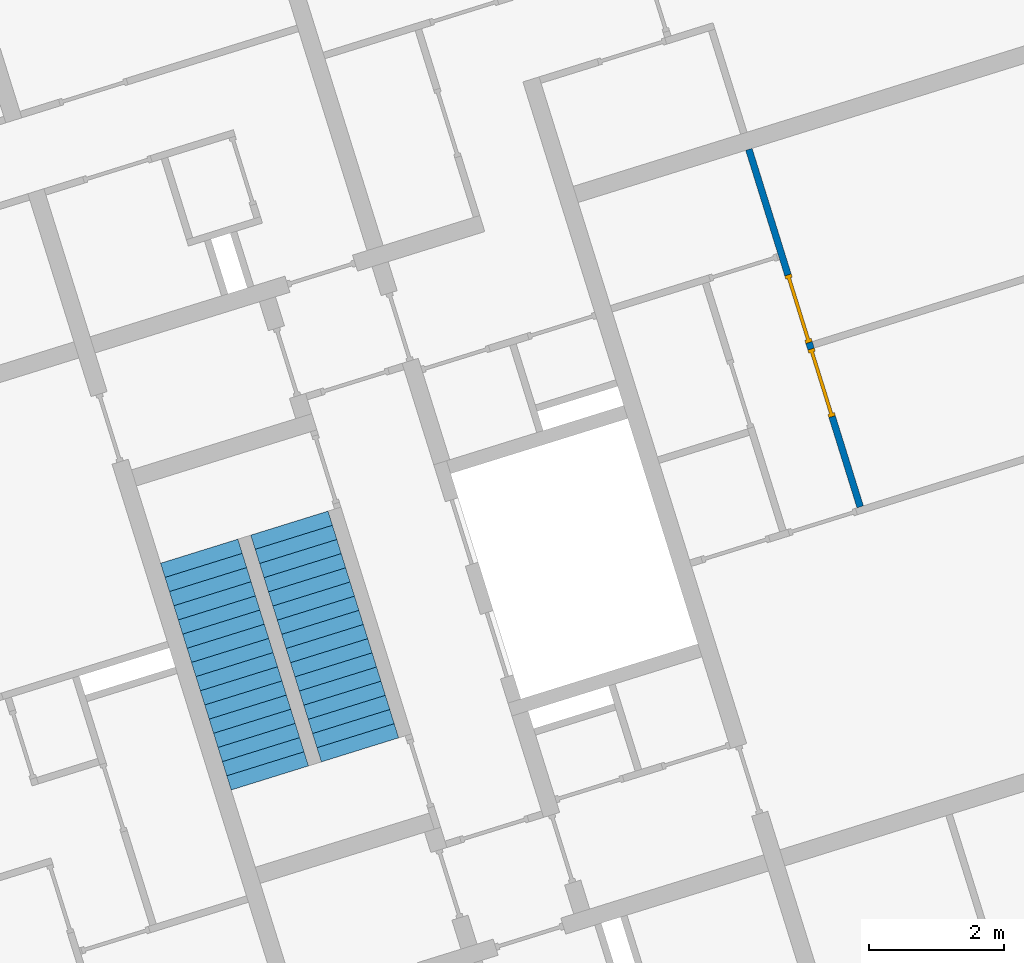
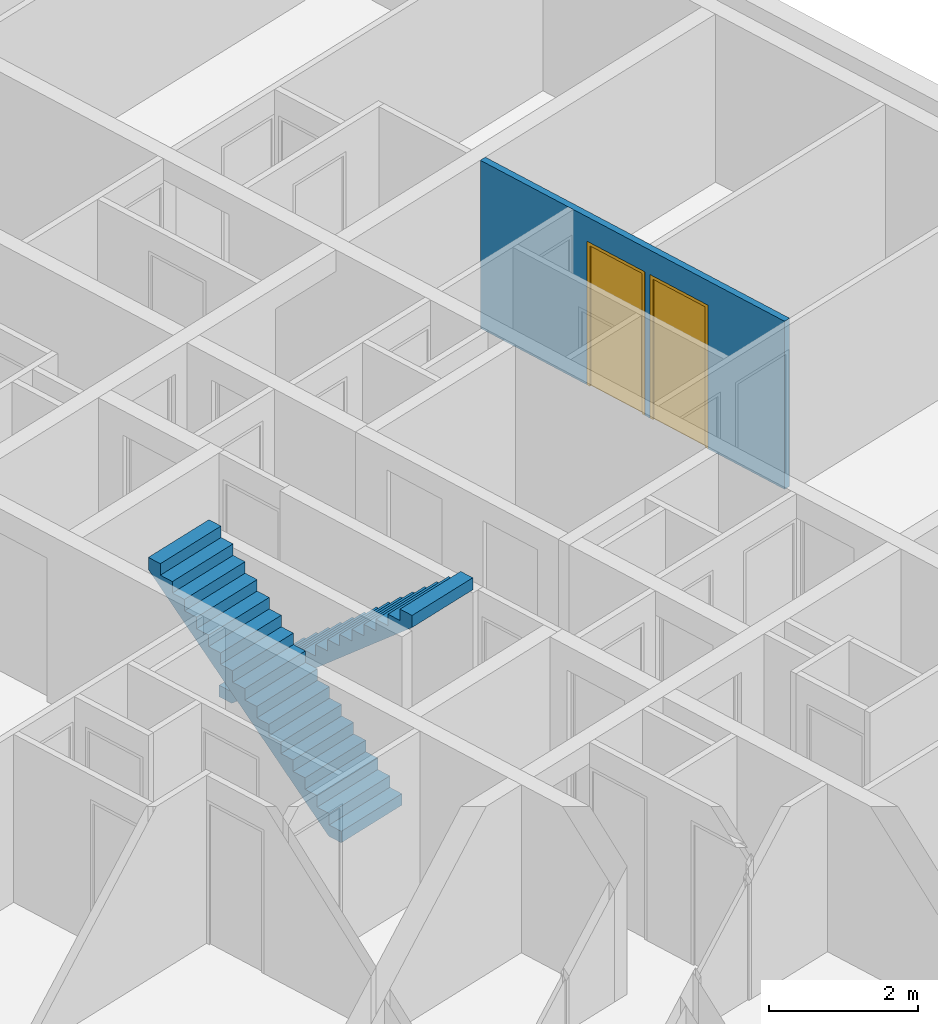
# One storey, part 9 of 9: 2 doors, 2 stair flights, 1 wall, 2 openings, 2 elements without a shape of their own.
"""IFC4 building model written with IfcOpenShell, lengths in metres."""

from ifc_helpers import new_model, entity, si_unit, converted_unit, direction, frame, origin, place, context, subcontext, project, spatial, indexed_curve, outline, extrude, polygons, source, transform, mapped, material, constituent, constituent_set, type_object, type_shapes, element, fill, aggregate, save


model = new_model("IFC4")

# Units and contexts
model_context = context("Model", 3, precision=1e-05, world=origin(), true_north=direction((6.12323399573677e-17, 1.0)))
body_context = subcontext(model_context, "Body", "Model", "MODEL_VIEW")
ifc_project = project(units=[si_unit("LENGTHUNIT", "METRE"), si_unit("AREAUNIT", "SQUARE_METRE"), converted_unit("PLANEANGLEUNIT", "DEGREE", entity("IfcPlaneAngleMeasure", 0.0174532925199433), si_unit("PLANEANGLEUNIT", "RADIAN"), dimensions=[0, 0, 0, 0, 0, 0, 0]), si_unit("VOLUMEUNIT", "CUBIC_METRE")], contexts=[model_context])

# Site, building, storey
site_placement = place(None, frame((13.1347999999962, 11.9886000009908, 0.0), z_axis=(0.0, 0.0, 1.0), x_axis=(0.954770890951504, 0.297342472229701, 0.0)))
site = spatial("IfcSite", under=ifc_project, at=site_placement, Name="Schiehaven", CompositionType="ELEMENT")
building_placement = place(site_placement, origin())
building = spatial("IfcBuilding", under=site, at=building_placement, Name="VORM huis", CompositionType="ELEMENT")
storey_placement = place(building_placement, frame((0.0, 0.0, 18.9)))
storey = spatial("IfcBuildingStorey", under=building, at=storey_placement, Name="06 zesde verdieping", CompositionType="ELEMENT", Elevation=18.9)

# Wall, openings, doors
ifc_material_1 = material(Name="ntb_ntb_ntb", Category="Miscellaneous")
wall_type = type_object("IfcWallType", Name="Basic Wall:22_WA_afbouw_binnenwand 100mm_gen", PredefinedType="STANDARD")
wall_placement = place(storey_placement, frame((75.2749999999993, 22.075, 0.0), z_axis=(0.0, 0.0, 1.0), x_axis=(0.0, -1.0, 0.0)))
wall = element("IfcWall", 1, at=wall_placement, inside=storey, type_object=wall_type, material=ifc_material_1, Name="Binnenwand", ObjectType="Wand", PredefinedType="NOTDEFINED", context=body_context, shape_type="Tessellation", body=[
    polygons([(3.00000000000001, -0.0500000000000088, 2.16573425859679e-15), (3.10000000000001, -0.0500000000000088, 2.16573425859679e-15), (3.10000000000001, -0.0500000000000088, 2.34999999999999), (4.15000000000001, -0.0500000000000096, 2.34999999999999), (4.15000000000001, -0.0500000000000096, 2.16573425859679e-15), (5.55000000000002, -0.0500000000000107, 2.16573425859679e-15), (5.55000000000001, -0.0500000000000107, 2.75), (1.70000000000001, -0.0500000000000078, 2.75), (1.60000000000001, -0.0500000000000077, 2.75), (0.0, -0.0500000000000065, 2.75), (0.0, -0.0500000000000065, 2.16573425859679e-15), (1.60000000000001, -0.0500000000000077, 2.16573425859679e-15), (1.70000000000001, -0.0500000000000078, 2.16573425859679e-15), (1.95, -0.050000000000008, 2.16573425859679e-15), (1.95000000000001, -0.050000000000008, 2.34999999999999), (3.00000000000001, -0.0500000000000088, 2.34999999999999), (3.10000000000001, 0.0500000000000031, 2.34999999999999), (3.10000000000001, 0.0500000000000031, 2.16573425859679e-15), (3.00000000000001, 0.0500000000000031, 2.16573425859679e-15), (3.00000000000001, 0.0500000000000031, 2.34999999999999), (1.95000000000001, 0.0500000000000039, 2.34999999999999), (1.95, 0.0500000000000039, 2.16573425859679e-15), (0.0, 0.0500000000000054, 2.16573425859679e-15), (0.0, 0.0500000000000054, 2.75), (3.00000000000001, 0.0499999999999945, 2.75), (3.10000000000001, 0.0499999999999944, 2.75), (5.55000000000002, 0.0500000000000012, 2.75), (5.55000000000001, 0.0500000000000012, 2.16573425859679e-15), (4.15000000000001, 0.0500000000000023, 2.16573425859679e-15), (4.15000000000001, 0.0500000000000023, 2.34999999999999)], [[[1, 2, 3, 4, 5, 6, 7, 8, 9, 10, 11, 12, 13, 14, 15, 16]], [[17, 18, 19, 20, 21, 22, 23, 24, 25, 26, 27, 28, 29, 30]], [[11, 23, 22, 14, 13, 12]], [[10, 9, 8, 7, 27, 26, 25, 24]], [[11, 10, 24, 23]], [[16, 20, 19, 1]], [[21, 15, 14, 22]], [[20, 16, 15, 21]], [[7, 6, 28, 27]], [[5, 4, 30, 29]], [[3, 2, 18, 17]], [[4, 3, 17, 30]], [[19, 18, 2, 1]], [[29, 28, 6, 5]]], closed=True),
])
opening_1_placement = place(wall_placement, frame((3.0, 0.0500000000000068, 0.0)))
opening_1 = element("IfcOpeningElement", 2, at=opening_1_placement, cuts=wall, Name="Binnendeur", PredefinedType="OPENING", context=body_context, shape_type="SweptSolid", body=[
    extrude(outline(indexed_curve([(2.34999999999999, 6.11348705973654e-31), (2.34999999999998, 1.05), (0.0, 1.05), (2.16573425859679e-15, 6.11348705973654e-31), (2.34999999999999, 6.11348705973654e-31)], self_intersect=False)), frame((0.0, 0.0, 0.0), z_axis=(0.0, -1.0, 0.0), x_axis=(0.0, 0.0, 1.0)), (0.0, 0.0, 1.0), 0.1),
])
opening_2_placement = place(wall_placement, frame((4.15000000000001, 0.0500000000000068, 0.0)))
opening_2 = element("IfcOpeningElement", 3, at=opening_2_placement, cuts=wall, Name="Binnendeur", PredefinedType="OPENING", context=body_context, shape_type="SweptSolid", body=[
    extrude(outline(indexed_curve([(2.34999999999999, 1.08286712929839e-15), (2.34999999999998, 1.05), (0.0, 1.05), (2.16573425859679e-15, 1.08286712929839e-15), (2.34999999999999, 1.08286712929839e-15)], self_intersect=False)), frame((0.0, 0.0, 0.0), z_axis=(0.0, -1.0, 0.0), x_axis=(0.0, 0.0, 1.0)), (0.0, 0.0, 1.0), 0.1),
])
ifc_material_2 = material(Name="PD_a_binnenwandopeningen", Category="Miscellaneous")
ifc_constituent_1 = constituent(ifc_material_2, Name="PD_a_binnenwandopeningen", Category="Miscellaneous")
ifc_material_3 = material(Name="metaal_aluminium_ntb", Category="Miscellaneous")
ifc_constituent_2 = constituent(ifc_material_3, Name="metaal_aluminium_ntb", Category="Miscellaneous")
ifc_constituent_set_1 = constituent_set(constituents=[ifc_constituent_1, ifc_constituent_2])
ifc_constituent_3 = constituent(ifc_material_2, Name="PD_a_binnenwandopeningen", Category="Miscellaneous")
ifc_constituent_4 = constituent(ifc_material_3, Name="Panel", Category="Miscellaneous")
ifc_constituent_set_2 = constituent_set(constituents=[ifc_constituent_3, ifc_constituent_4])
door_type = type_object("IfcDoorType", Name="32_DO_binnendeur enkel:binnendeur", OperationType="REVOLVING", PredefinedType="DOOR", material=ifc_constituent_set_2)
shared_shape = source(origin(), body_context, "Body", "SweptSolid", [
    extrude(outline(indexed_curve([(0.475, -1.16249999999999), (0.525, -1.16249999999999), (0.525, 1.18749999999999), (-0.525, 1.18749999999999), (-0.525, -1.16249999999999), (-0.475, -1.16249999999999), (-0.475, 1.13749999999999), (0.475, 1.13749999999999), (0.475, -1.16249999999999)], self_intersect=False)), frame((0.525000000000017, 0.100000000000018, 1.16249999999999), z_axis=(0.0, -1.0, 0.0), x_axis=(1.0, 0.0, 0.0)), (0.0, 0.0, 1.0), 0.1),
    extrude(outline(indexed_curve([(-0.475, -0.025), (0.475, -0.025), (0.475, 0.025), (-0.475, 0.025), (-0.475, -0.025)], self_intersect=False)), frame((0.525000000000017, 0.0499999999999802, 0.0)), (0.0, 0.0, 1.0), 2.29999999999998),
])
type_shapes(door_type, [shared_shape])
door_1_placement = place(opening_1_placement, frame((0.0, 0.0, 0.0), z_axis=(0.0, 0.0, 1.0), x_axis=(-1.0, 0.0, 0.0)))
door_1 = element("IfcDoor", 4, at=door_1_placement, inside=storey, type_object=door_type, material=ifc_constituent_set_1, Name="Binnendeur", ObjectType="Deur", OperationType="REVOLVING", OverallHeight=2.34999999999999, OverallWidth=1.05, PredefinedType="DOOR", context=body_context, shape_type="MappedRepresentation", body=[
    mapped(shared_shape, transform((0.0, 0.0, 0.0), scale=1.0)),
])
fill(opening_1, door_1)
ifc_constituent_5 = constituent(ifc_material_2, Name="PD_a_binnenwandopeningen", Category="Miscellaneous")
ifc_constituent_6 = constituent(ifc_material_3, Name="metaal_aluminium_ntb", Category="Miscellaneous")
ifc_constituent_set_3 = constituent_set(constituents=[ifc_constituent_5, ifc_constituent_6])
door_2_placement = place(opening_2_placement, frame((0.0, 0.0, 0.0), z_axis=(0.0, 0.0, 1.0), x_axis=(-1.0, 0.0, 0.0)))
door_2 = element("IfcDoor", 5, at=door_2_placement, inside=storey, type_object=door_type, material=ifc_constituent_set_3, Name="Binnendeur", ObjectType="Deur", OperationType="REVOLVING", OverallHeight=2.34999999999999, OverallWidth=1.05, PredefinedType="DOOR", context=body_context, shape_type="MappedRepresentation", body=[
    mapped(shared_shape, transform((0.0, 0.0, 0.0), scale=1.0)),
])
fill(opening_2, door_2)

# Stair, stair flight
stair_type = type_object("IfcStairType", Name="Trap", PredefinedType="STRAIGHT_RUN_STAIR")
stair_1_placement = place(storey_placement, origin())
stair_1 = element("IfcStair", 6, at=stair_1_placement, inside=storey, type_object=stair_type, Name="Hoofdtrap", ObjectType="Precast Stair:NLRS_24_STR_reguliere trap-woonfunctie-breedte 1200mm_gen", PredefinedType="STRAIGHT_RUN_STAIR")
ifc_material_4 = material(Name="beton_gewapend_prefab-element", Category="Miscellaneous")
stair_flight_type = type_object("IfcStairFlightType", Name="Monolithic Run:NLRS_24_STRR_trap-beton prefab-monolithisch-recht_gen_rsf", PredefinedType="STRAIGHT")
stair_flight_1_placement = place(stair_1_placement, frame((65.1250000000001, 15.2899999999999, 0.0)))
stair_flight_1 = element("IfcStairFlight", 7, at=stair_flight_1_placement, type_object=stair_flight_type, material=ifc_material_4, Name="Hoofdtrap Run 1", ObjectType="Monolithic Run:NLRS_24_STRR_trap-beton prefab-monolithisch-recht_gen_rsf", PredefinedType="STRAIGHT", context=body_context, shape_type="Tessellation", body=[
    polygons([(0.0, 0.220000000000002, 0.1875), (0.0, 3.5527136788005e-15, 0.1875), (1.2, 3.5527136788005e-15, 0.1875), (1.2, 0.220000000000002, 0.1875), (1.2, 3.5527136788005e-15, 0.0), (1.2, 0.220000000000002, 0.0), (0.0, 3.5527136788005e-15, 0.0), (0.0, 0.220000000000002, 0.0), (0.0, 0.440000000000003, 0.374999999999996), (0.0, 0.220000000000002, 0.374999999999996), (1.2, 0.220000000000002, 0.374999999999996), (1.2, 0.440000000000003, 0.374999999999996), (1.2, 0.231248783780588, 0.0), (1.2, 0.440000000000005, 0.177912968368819), (0.0, 0.440000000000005, 0.177912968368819), (0.0, 0.231248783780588, 0.0), (0.0, 0.660000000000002, 0.562499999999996), (0.0, 0.440000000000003, 0.562499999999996), (1.2, 0.440000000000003, 0.562499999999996), (1.2, 0.660000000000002, 0.562499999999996), (1.2, 0.660000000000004, 0.365412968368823), (0.0, 0.660000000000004, 0.365412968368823), (0.0, 0.880000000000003, 0.749999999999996), (0.0, 0.660000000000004, 0.749999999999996), (1.2, 0.660000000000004, 0.749999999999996), (1.2, 0.880000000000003, 0.749999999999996), (1.2, 0.880000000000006, 0.552912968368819), (0.0, 0.880000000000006, 0.552912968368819), (0.0, 1.1, 0.937499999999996), (0.0, 0.880000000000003, 0.937499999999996), (1.2, 0.880000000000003, 0.937499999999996), (1.2, 1.1, 0.937499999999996), (1.2, 1.10000000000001, 0.740412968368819), (0.0, 1.10000000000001, 0.740412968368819), (0.0, 1.32, 1.125), (0.0, 1.1, 1.125), (1.2, 1.1, 1.125), (1.2, 1.32, 1.125), (1.2, 1.32000000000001, 0.927912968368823), (0.0, 1.32000000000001, 0.927912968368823), (0.0, 1.54, 1.3125), (0.0, 1.32, 1.3125), (1.2, 1.32, 1.3125), (1.2, 1.54, 1.3125), (1.2, 1.54000000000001, 1.11541296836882), (0.0, 1.54000000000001, 1.11541296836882), (0.0, 1.76000000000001, 1.5), (0.0, 1.54, 1.5), (1.2, 1.54, 1.5), (1.2, 1.76000000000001, 1.5), (1.2, 1.76000000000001, 1.30291296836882), (0.0, 1.76000000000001, 1.30291296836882), (0.0, 1.98, 1.6875), (0.0, 1.76, 1.6875), (1.2, 1.76, 1.6875), (1.2, 1.98, 1.6875), (1.2, 1.98000000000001, 1.49041296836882), (0.0, 1.98000000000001, 1.49041296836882), (0.0, 2.2, 1.875), (0.0, 1.98, 1.875), (1.2, 1.98, 1.875), (1.2, 2.2, 1.875), (1.2, 2.2, 1.67791296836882), (0.0, 2.2, 1.67791296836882), (0.0, 2.42, 2.0625), (0.0, 2.2, 2.0625), (1.2, 2.2, 2.0625), (1.2, 2.42, 2.0625), (1.2, 2.42000000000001, 1.86541296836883), (0.0, 2.42000000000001, 1.86541296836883), (0.0, 2.64, 2.25), (0.0, 2.42, 2.25), (1.2, 2.42, 2.25), (1.2, 2.64, 2.25), (1.2, 2.64000000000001, 2.05291296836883), (0.0, 2.64000000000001, 2.05291296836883), (0.0, 2.86, 2.4375), (0.0, 2.64, 2.4375), (1.2, 2.64, 2.4375), (1.2, 2.86, 2.4375), (1.2, 2.86000000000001, 2.24041296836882), (0.0, 2.86000000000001, 2.24041296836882), (0.0, 3.08, 2.625), (0.0, 2.86, 2.625), (1.2, 2.86, 2.625), (1.2, 3.08, 2.625), (1.2, 3.08000000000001, 2.42791296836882), (0.0, 3.08000000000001, 2.42791296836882), (0.0, 3.3, 2.8125), (0.0, 3.08000000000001, 2.8125), (1.2, 3.08000000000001, 2.8125), (1.2, 3.3, 2.8125), (1.2, 3.30000000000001, 2.61541296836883), (0.0, 3.30000000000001, 2.61541296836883), (0.0, 3.52, 3.0), (0.0, 3.3, 3.0), (1.2, 3.3, 3.0), (1.2, 3.52, 3.0), (1.2, 3.52, 2.80291296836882), (0.0, 3.52, 2.80291296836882)], [[[1, 2, 3, 4]], [[4, 3, 5, 6]], [[3, 2, 7, 5]], [[2, 1, 8, 7]], [[9, 10, 11, 12]], [[4, 6, 13, 14, 12, 11]], [[1, 4, 11, 10]], [[8, 1, 10, 9, 15, 16]], [[17, 18, 19, 20]], [[20, 19, 12, 14, 21]], [[9, 12, 19, 18]], [[18, 17, 22, 15, 9]], [[23, 24, 25, 26]], [[26, 25, 20, 21, 27]], [[17, 20, 25, 24]], [[24, 23, 28, 22, 17]], [[29, 30, 31, 32]], [[32, 31, 26, 27, 33]], [[23, 26, 31, 30]], [[30, 29, 34, 28, 23]], [[35, 36, 37, 38]], [[38, 37, 32, 33, 39]], [[29, 32, 37, 36]], [[36, 35, 40, 34, 29]], [[41, 42, 43, 44]], [[44, 43, 38, 39, 45]], [[35, 38, 43, 42]], [[42, 41, 46, 40, 35]], [[47, 48, 49, 50]], [[50, 49, 44, 45, 51]], [[41, 44, 49, 48]], [[48, 47, 52, 46, 41]], [[53, 54, 55, 56]], [[56, 55, 50, 51, 57]], [[47, 50, 55, 54]], [[54, 53, 58, 52, 47]], [[59, 60, 61, 62]], [[62, 61, 56, 57, 63]], [[53, 56, 61, 60]], [[60, 59, 64, 58, 53]], [[65, 66, 67, 68]], [[68, 67, 62, 63, 69]], [[59, 62, 67, 66]], [[66, 65, 70, 64, 59]], [[71, 72, 73, 74]], [[74, 73, 68, 69, 75]], [[65, 68, 73, 72]], [[72, 71, 76, 70, 65]], [[77, 78, 79, 80]], [[80, 79, 74, 75, 81]], [[71, 74, 79, 78]], [[78, 77, 82, 76, 71]], [[83, 84, 85, 86]], [[86, 85, 80, 81, 87]], [[77, 80, 85, 84]], [[84, 83, 88, 82, 77]], [[89, 90, 91, 92]], [[92, 91, 86, 87, 93]], [[83, 86, 91, 90]], [[90, 89, 94, 88, 83]], [[95, 96, 97, 98]], [[98, 97, 92, 93, 99]], [[89, 92, 97, 96]], [[96, 95, 100, 94, 89]], [[95, 98, 99, 100]], [[7, 8, 16, 13, 6, 5]], [[13, 16, 15, 22, 28, 34, 40, 46, 52, 58, 64, 70, 76, 82, 88, 94, 100, 99, 93, 87, 81, 75, 69, 63, 57, 51, 45, 39, 33, 27, 21, 14]]], closed=True),
])
aggregate(stair_1, [stair_flight_1])

stair_2_placement = place(storey_placement, origin())
stair_2 = element("IfcStair", 8, at=stair_2_placement, inside=storey, type_object=stair_type, Name="Hoofdtrap", ObjectType="Precast Stair:NLRS_24_STR_reguliere trap-woonfunctie-breedte 1200mm_gen", PredefinedType="STRAIGHT_RUN_STAIR")
stair_flight_2_placement = place(stair_2_placement, frame((66.5250000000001, 15.2899999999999, 0.0)))
stair_flight_2 = element("IfcStairFlight", 9, at=stair_flight_2_placement, type_object=stair_flight_type, material=ifc_material_4, Name="Hoofdtrap Run 1", ObjectType="Monolithic Run:NLRS_24_STRR_trap-beton prefab-monolithisch-recht_gen_rsf", PredefinedType="STRAIGHT", context=body_context, shape_type="Tessellation", body=[
    polygons([(1.2, 3.3, 0.1875), (1.2, 3.52, 0.1875), (0.0, 3.52, 0.1875), (0.0, 3.3, 0.1875), (0.0, 3.52, 0.0), (0.0, 3.3, 0.0), (1.2, 3.52, 0.0), (1.2, 3.3, 0.0), (1.2, 3.08, 0.374999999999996), (1.2, 3.3, 0.374999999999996), (0.0, 3.3, 0.374999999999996), (0.0, 3.08, 0.374999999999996), (0.0, 3.28875121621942, 0.0), (0.0, 3.08, 0.177912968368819), (1.2, 3.08, 0.177912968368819), (1.2, 3.28875121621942, 0.0), (1.2, 2.86, 0.562499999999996), (1.2, 3.08, 0.562499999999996), (0.0, 3.08, 0.562499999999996), (0.0, 2.86, 0.562499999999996), (0.0, 2.86, 0.365412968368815), (1.2, 2.86, 0.365412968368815), (1.2, 2.64, 0.749999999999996), (1.2, 2.86, 0.749999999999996), (0.0, 2.86, 0.749999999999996), (0.0, 2.64, 0.749999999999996), (0.0, 2.64, 0.552912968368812), (1.2, 2.64, 0.552912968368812), (1.2, 2.42, 0.937499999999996), (1.2, 2.64, 0.937499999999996), (0.0, 2.64, 0.937499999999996), (0.0, 2.42, 0.937499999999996), (0.0, 2.42, 0.740412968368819), (1.2, 2.42, 0.740412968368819), (1.2, 2.2, 1.125), (1.2, 2.42, 1.125), (0.0, 2.42, 1.125), (0.0, 2.2, 1.125), (0.0, 2.2, 0.927912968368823), (1.2, 2.2, 0.927912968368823), (1.2, 1.98, 1.3125), (1.2, 2.2, 1.3125), (0.0, 2.2, 1.3125), (0.0, 1.98, 1.3125), (0.0, 1.98, 1.11541296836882), (1.2, 1.98, 1.11541296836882), (1.2, 1.76, 1.5), (1.2, 1.98, 1.5), (0.0, 1.98, 1.5), (0.0, 1.76, 1.5), (0.0, 1.76, 1.30291296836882), (1.2, 1.76, 1.30291296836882), (1.2, 1.54, 1.6875), (1.2, 1.76, 1.6875), (0.0, 1.76, 1.6875), (0.0, 1.54, 1.6875), (0.0, 1.54, 1.49041296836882), (1.2, 1.54, 1.49041296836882), (1.2, 1.32, 1.875), (1.2, 1.54, 1.875), (0.0, 1.54, 1.875), (0.0, 1.32, 1.875), (0.0, 1.32, 1.67791296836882), (1.2, 1.32, 1.67791296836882), (1.2, 1.1, 2.0625), (1.2, 1.32, 2.0625), (0.0, 1.32, 2.0625), (0.0, 1.1, 2.0625), (0.0, 1.1, 1.86541296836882), (1.2, 1.1, 1.86541296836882), (1.2, 0.879999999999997, 2.25), (1.2, 1.1, 2.25), (0.0, 1.1, 2.25), (0.0, 0.879999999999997, 2.25), (0.0, 0.880000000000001, 2.05291296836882), (1.2, 0.880000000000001, 2.05291296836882), (1.2, 0.659999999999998, 2.4375), (1.2, 0.880000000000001, 2.4375), (0.0, 0.880000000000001, 2.4375), (0.0, 0.659999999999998, 2.4375), (0.0, 0.660000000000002, 2.24041296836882), (1.2, 0.660000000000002, 2.24041296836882), (1.2, 0.44, 2.625), (1.2, 0.659999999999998, 2.625), (0.0, 0.659999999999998, 2.625), (0.0, 0.44, 2.625), (0.0, 0.440000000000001, 2.42791296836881), (1.2, 0.440000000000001, 2.42791296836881), (1.2, 0.219999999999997, 2.8125), (1.2, 0.439999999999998, 2.8125), (0.0, 0.439999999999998, 2.8125), (0.0, 0.219999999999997, 2.8125), (0.0, 0.219999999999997, 2.61541296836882), (1.2, 0.219999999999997, 2.61541296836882), (1.2, -1.77635683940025e-15, 3.0), (1.2, 0.219999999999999, 3.0), (0.0, 0.219999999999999, 3.0), (0.0, -1.77635683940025e-15, 3.0), (0.0, 1.77635683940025e-15, 2.80291296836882), (1.2, 1.77635683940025e-15, 2.80291296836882)], [[[1, 2, 3, 4]], [[4, 3, 5, 6]], [[3, 2, 7, 5]], [[2, 1, 8, 7]], [[9, 10, 11, 12]], [[4, 6, 13, 14, 12, 11]], [[1, 4, 11, 10]], [[8, 1, 10, 9, 15, 16]], [[17, 18, 19, 20]], [[20, 19, 12, 14, 21]], [[9, 12, 19, 18]], [[18, 17, 22, 15, 9]], [[23, 24, 25, 26]], [[26, 25, 20, 21, 27]], [[17, 20, 25, 24]], [[24, 23, 28, 22, 17]], [[29, 30, 31, 32]], [[32, 31, 26, 27, 33]], [[23, 26, 31, 30]], [[30, 29, 34, 28, 23]], [[35, 36, 37, 38]], [[38, 37, 32, 33, 39]], [[29, 32, 37, 36]], [[36, 35, 40, 34, 29]], [[41, 42, 43, 44]], [[44, 43, 38, 39, 45]], [[35, 38, 43, 42]], [[42, 41, 46, 40, 35]], [[47, 48, 49, 50]], [[50, 49, 44, 45, 51]], [[41, 44, 49, 48]], [[48, 47, 52, 46, 41]], [[53, 54, 55, 56]], [[56, 55, 50, 51, 57]], [[47, 50, 55, 54]], [[54, 53, 58, 52, 47]], [[59, 60, 61, 62]], [[62, 61, 56, 57, 63]], [[53, 56, 61, 60]], [[60, 59, 64, 58, 53]], [[65, 66, 67, 68]], [[68, 67, 62, 63, 69]], [[59, 62, 67, 66]], [[66, 65, 70, 64, 59]], [[71, 72, 73, 74]], [[74, 73, 68, 69, 75]], [[65, 68, 73, 72]], [[72, 71, 76, 70, 65]], [[77, 78, 79, 80]], [[80, 79, 74, 75, 81]], [[71, 74, 79, 78]], [[78, 77, 82, 76, 71]], [[83, 84, 85, 86]], [[86, 85, 80, 81, 87]], [[77, 80, 85, 84]], [[84, 83, 88, 82, 77]], [[89, 90, 91, 92]], [[92, 91, 86, 87, 93]], [[83, 86, 91, 90]], [[90, 89, 94, 88, 83]], [[95, 96, 97, 98]], [[98, 97, 92, 93, 99]], [[89, 92, 97, 96]], [[96, 95, 100, 94, 89]], [[95, 98, 99, 100]], [[7, 8, 16, 13, 6, 5]], [[13, 16, 15, 22, 28, 34, 40, 46, 52, 58, 64, 70, 76, 82, 88, 94, 100, 99, 93, 87, 81, 75, 69, 63, 57, 51, 45, 39, 33, 27, 21, 14]]], closed=True),
])
aggregate(stair_2, [stair_flight_2])

save(model, "model.ifc")
